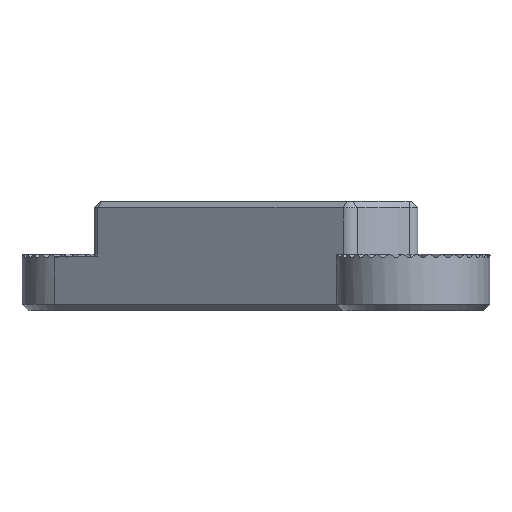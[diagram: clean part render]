
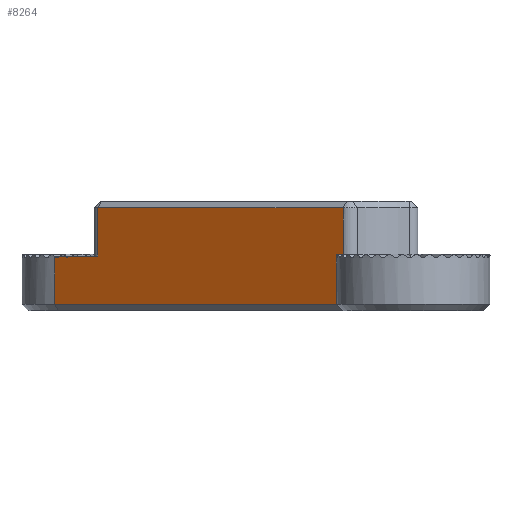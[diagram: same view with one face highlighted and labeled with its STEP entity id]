
A CAD part, left-side view. The second image highlights one B-rep face of the part: STEP entity #8264.
In plain terms, the highlighted planar face has unit normal (-0.819, 0.574, 0).
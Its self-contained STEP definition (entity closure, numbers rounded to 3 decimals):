
#459=PLANE('',#8919);
#852=FACE_OUTER_BOUND('',#1303,.T.);
#1303=EDGE_LOOP('',(#6128,#6129,#6130,#6131,#6132,#6133,#6134,#6135,#6136));
#1828=LINE('',#12809,#2487);
#1831=LINE('',#12830,#2490);
#1846=LINE('',#13086,#2505);
#1850=LINE('',#13102,#2509);
#1854=LINE('',#13125,#2513);
#1855=LINE('',#13126,#2514);
#1856=LINE('',#13128,#2515);
#1857=LINE('',#13130,#2516);
#1858=LINE('',#13131,#2517);
#2487=VECTOR('',#10058,10.);
#2490=VECTOR('',#10083,10.);
#2505=VECTOR('',#10340,10.);
#2509=VECTOR('',#10360,10.);
#2513=VECTOR('',#10388,10.);
#2514=VECTOR('',#10389,10.);
#2515=VECTOR('',#10390,10.);
#2516=VECTOR('',#10391,10.);
#2517=VECTOR('',#10392,10.);
#3437=VERTEX_POINT('',#12799);
#3439=VERTEX_POINT('',#12805);
#3447=VERTEX_POINT('',#12828);
#3566=VERTEX_POINT('',#13080);
#3567=VERTEX_POINT('',#13084);
#3571=VERTEX_POINT('',#13100);
#3578=VERTEX_POINT('',#13124);
#3579=VERTEX_POINT('',#13127);
#3580=VERTEX_POINT('',#13129);
#4382=EDGE_CURVE('',#3437,#3439,#1828,.T.);
#4393=EDGE_CURVE('',#3447,#3437,#1831,.T.);
#4521=EDGE_CURVE('',#3566,#3567,#1846,.T.);
#4529=EDGE_CURVE('',#3571,#3566,#1850,.T.);
#4540=EDGE_CURVE('',#3447,#3578,#1854,.T.);
#4541=EDGE_CURVE('',#3567,#3578,#1855,.T.);
#4542=EDGE_CURVE('',#3579,#3571,#1856,.T.);
#4543=EDGE_CURVE('',#3579,#3580,#1857,.T.);
#4544=EDGE_CURVE('',#3580,#3439,#1858,.T.);
#6128=ORIENTED_EDGE('',*,*,#4382,.F.);
#6129=ORIENTED_EDGE('',*,*,#4393,.F.);
#6130=ORIENTED_EDGE('',*,*,#4540,.T.);
#6131=ORIENTED_EDGE('',*,*,#4541,.F.);
#6132=ORIENTED_EDGE('',*,*,#4521,.F.);
#6133=ORIENTED_EDGE('',*,*,#4529,.F.);
#6134=ORIENTED_EDGE('',*,*,#4542,.F.);
#6135=ORIENTED_EDGE('',*,*,#4543,.T.);
#6136=ORIENTED_EDGE('',*,*,#4544,.T.);
#8264=ADVANCED_FACE('',(#852),#459,.T.);
#8919=AXIS2_PLACEMENT_3D('',#13123,#10386,#10387);
#10058=DIRECTION('',(0.574,0.819,0.));
#10083=DIRECTION('',(0.,0.,-1.));
#10340=DIRECTION('',(-0.574,-0.819,0.));
#10360=DIRECTION('',(0.,0.,1.));
#10386=DIRECTION('center_axis',(-0.819,0.574,0.));
#10387=DIRECTION('ref_axis',(0.574,0.819,0.));
#10388=DIRECTION('',(-0.574,-0.819,0.007));
#10389=DIRECTION('',(0.,0.,-1.));
#10390=DIRECTION('',(-0.574,-0.819,0.));
#10391=DIRECTION('',(0.,0.,-1.));
#10392=DIRECTION('',(0.,0.,-1.));
#12799=CARTESIAN_POINT('',(96.643,-19.084,-22.));
#12805=CARTESIAN_POINT('',(188.646,112.311,-22.));
#12809=CARTESIAN_POINT('',(112.643,3.767,-22.));
#12828=CARTESIAN_POINT('',(96.643,-19.084,0.574));
#12830=CARTESIAN_POINT('',(96.643,-19.084,0.));
#13080=CARTESIAN_POINT('',(174.885,92.657,22.));
#13084=CARTESIAN_POINT('',(96.614,-19.125,22.));
#13086=CARTESIAN_POINT('',(112.643,3.767,22.));
#13100=CARTESIAN_POINT('',(174.885,92.657,0.));
#13102=CARTESIAN_POINT('',(174.885,92.657,0.));
#13123=CARTESIAN_POINT('Origin',(93.998,-22.861,0.));
#13124=CARTESIAN_POINT('',(96.614,-19.125,0.575));
#13125=CARTESIAN_POINT('',(92.565,-24.907,0.624));
#13126=CARTESIAN_POINT('',(96.614,-19.125,0.));
#13127=CARTESIAN_POINT('',(188.646,112.311,0.));
#13128=CARTESIAN_POINT('',(112.643,3.767,0.));
#13129=CARTESIAN_POINT('',(188.646,112.311,-0.392));
#13130=CARTESIAN_POINT('',(188.646,112.311,0.));
#13131=CARTESIAN_POINT('',(188.646,112.311,0.));
